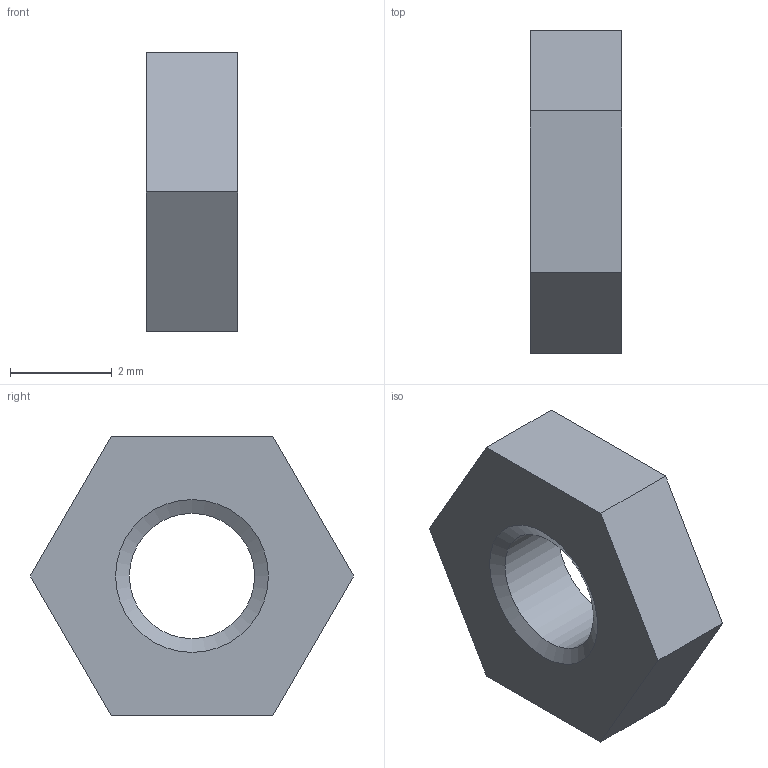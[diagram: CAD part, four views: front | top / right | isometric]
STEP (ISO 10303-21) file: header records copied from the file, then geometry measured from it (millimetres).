
FILE_DESCRIPTION(/* description */ ('6각 너트 및 6각 가는 너트 - 모따기 안된'),/* implementation_level */ '2;1');
FILE_NAME(/* name */ '',/* time_stamp */ '2025-09-02T10:42:21+09:00',/* author */ ('jhkim'),/* organization */ (''),/* preprocessor_version */ 'ST-DEVELOPER v20.1',/* originating_system */ 'Autodesk Inventor 2026',/* authorisation */ '');
FILE_SCHEMA (('AUTOMOTIVE_DESIGN { 1 0 10303 214 3 1 1 }'));
Length unit declared in the file: millimetre
Products named in the file (1): 육각 너트 M3
Bounding box: 1.8 x 6.35 x 5.5 mm (x, y, z)
Volume: 38.3 mm3; surface area: 89.4 mm2
Topology: 1 solids, 1 shells, 11 faces, 26 edges, 17 vertices
Faces by surface type: plane 8, cone 2, cylinder 1
Full cylindrical faces by diameter (mm): 2.459 x1
Entity records: 364 total; most frequent: DIRECTION 55, CARTESIAN_POINT 55, ORIENTED_EDGE 52, EDGE_CURVE 26, LINE 21, VECTOR 21, VERTEX_POINT 17, AXIS2_PLACEMENT_3D 17
